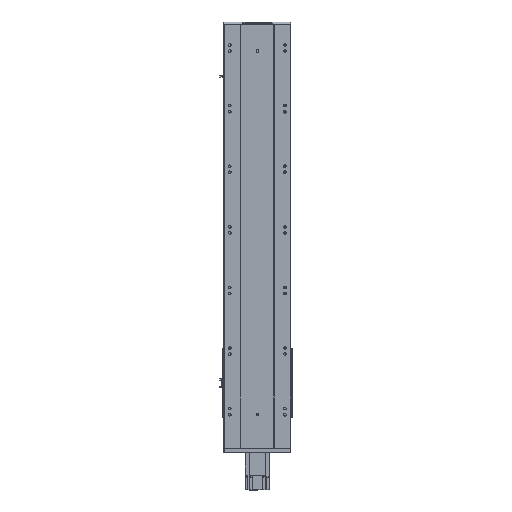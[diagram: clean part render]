
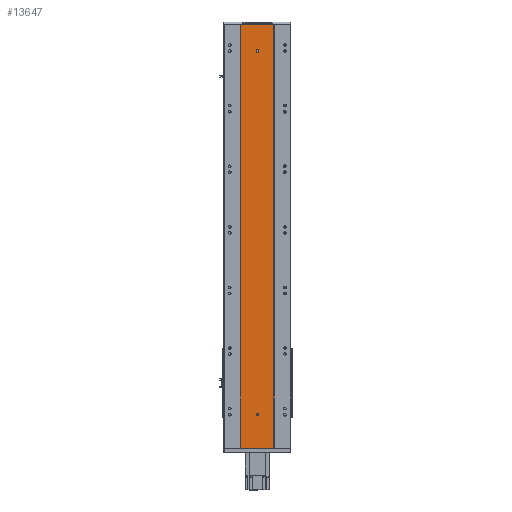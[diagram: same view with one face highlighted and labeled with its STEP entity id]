
A CAD part, top view. The second image highlights one B-rep face of the part: STEP entity #13647.
In plain terms, the highlighted planar face has unit normal (0, 0, 1).
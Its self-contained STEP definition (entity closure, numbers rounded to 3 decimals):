
#510 = EDGE_CURVE ( 'NONE', #26746, #13323, #16286, .T. ) ;
#695 = EDGE_LOOP ( 'NONE', ( #18181, #17493 ) ) ;
#696 = CARTESIAN_POINT ( 'NONE',  ( -4., 1309., 58. ) ) ;
#1086 = CARTESIAN_POINT ( 'NONE',  ( 55., 1397., 58. ) ) ;
#1141 = DIRECTION ( 'NONE',  ( 1., 0., 0. ) ) ;
#2006 = CARTESIAN_POINT ( 'NONE',  ( -4., 1309., 58. ) ) ;
#2938 = ORIENTED_EDGE ( 'NONE', *, *, #6625, .F. ) ;
#3238 = LINE ( 'NONE', #3608, #28478 ) ;
#3364 = AXIS2_PLACEMENT_3D ( 'NONE', #29011, #4391, #8823 ) ;
#3608 = CARTESIAN_POINT ( 'NONE',  ( -55., 1397., 58. ) ) ;
#3988 = CARTESIAN_POINT ( 'NONE',  ( -55., 0., 58. ) ) ;
#4126 = DIRECTION ( 'NONE',  ( 1., 0., 0. ) ) ;
#4391 = DIRECTION ( 'NONE',  ( 0., 0., 1. ) ) ;
#5233 = EDGE_CURVE ( 'NONE', #9605, #9169, #11772, .T. ) ;
#5434 = CARTESIAN_POINT ( 'NONE',  ( 0., 1311., 58. ) ) ;
#6055 = CARTESIAN_POINT ( 'NONE',  ( 0., 110., 58. ) ) ;
#6625 = EDGE_CURVE ( 'NONE', #10661, #18794, #7141, .T. ) ;
#6629 = CIRCLE ( 'NONE', #13360, 4. ) ;
#6835 = VERTEX_POINT ( 'NONE', #696 ) ;
#6971 = EDGE_CURVE ( 'NONE', #8799, #10781, #10625, .T. ) ;
#7141 = LINE ( 'NONE', #22121, #14150 ) ;
#7654 = CARTESIAN_POINT ( 'NONE',  ( -55., 0., 58. ) ) ;
#7805 = AXIS2_PLACEMENT_3D ( 'NONE', #5434, #23136, #1141 ) ;
#7885 = AXIS2_PLACEMENT_3D ( 'NONE', #20626, #27370, #11299 ) ;
#8799 = VERTEX_POINT ( 'NONE', #3988 ) ;
#8823 = DIRECTION ( 'NONE',  ( 1., 0., 0. ) ) ;
#9046 = DIRECTION ( 'NONE',  ( 0., -1., 0. ) ) ;
#9169 = VERTEX_POINT ( 'NONE', #26096 ) ;
#9257 = ORIENTED_EDGE ( 'NONE', *, *, #19882, .F. ) ;
#9304 = ORIENTED_EDGE ( 'NONE', *, *, #6971, .T. ) ;
#9605 = VERTEX_POINT ( 'NONE', #23335 ) ;
#10193 = FACE_BOUND ( 'NONE', #11931, .T. ) ;
#10311 = EDGE_CURVE ( 'NONE', #9169, #6835, #16125, .T. ) ;
#10625 = LINE ( 'NONE', #7654, #21536 ) ;
#10661 = VERTEX_POINT ( 'NONE', #12372 ) ;
#10781 = VERTEX_POINT ( 'NONE', #22060 ) ;
#11002 = DIRECTION ( 'NONE',  ( 0., -1., 0. ) ) ;
#11299 = DIRECTION ( 'NONE',  ( -1., 0., 0. ) ) ;
#11772 = CIRCLE ( 'NONE', #7805, 4. ) ;
#11906 = EDGE_LOOP ( 'NONE', ( #9304, #18253, #2938, #13684 ) ) ;
#11931 = EDGE_LOOP ( 'NONE', ( #9257, #16215, #15834, #17824 ) ) ;
#12372 = CARTESIAN_POINT ( 'NONE',  ( -55., 1397., 58. ) ) ;
#13323 = VERTEX_POINT ( 'NONE', #25948 ) ;
#13359 = PLANE ( 'NONE',  #7885 ) ;
#13360 = AXIS2_PLACEMENT_3D ( 'NONE', #23480, #26200, #4126 ) ;
#13581 = VECTOR ( 'NONE', #25722, 1000. ) ;
#13647 = ADVANCED_FACE ( 'NONE', ( #24973, #10193, #17926 ), #13359, .F. ) ;
#13684 = ORIENTED_EDGE ( 'NONE', *, *, #26314, .T. ) ;
#14150 = VECTOR ( 'NONE', #28552, 1000. ) ;
#15112 = DIRECTION ( 'NONE',  ( 1., 0., 0. ) ) ;
#15403 = VECTOR ( 'NONE', #11002, 1000. ) ;
#15651 = CARTESIAN_POINT ( 'NONE',  ( 4., 1309., 58. ) ) ;
#15834 = ORIENTED_EDGE ( 'NONE', *, *, #10311, .F. ) ;
#16125 = LINE ( 'NONE', #2006, #15403 ) ;
#16215 = ORIENTED_EDGE ( 'NONE', *, *, #19137, .F. ) ;
#16286 = CIRCLE ( 'NONE', #3364, 4. ) ;
#16392 = EDGE_CURVE ( 'NONE', #18794, #10781, #22386, .T. ) ;
#16458 = AXIS2_PLACEMENT_3D ( 'NONE', #6055, #26486, #15112 ) ;
#16459 = LINE ( 'NONE', #15651, #22069 ) ;
#17493 = ORIENTED_EDGE ( 'NONE', *, *, #27948, .F. ) ;
#17824 = ORIENTED_EDGE ( 'NONE', *, *, #5233, .F. ) ;
#17926 = FACE_OUTER_BOUND ( 'NONE', #11906, .T. ) ;
#18181 = ORIENTED_EDGE ( 'NONE', *, *, #510, .F. ) ;
#18253 = ORIENTED_EDGE ( 'NONE', *, *, #16392, .F. ) ;
#18452 = VERTEX_POINT ( 'NONE', #19474 ) ;
#18794 = VERTEX_POINT ( 'NONE', #23332 ) ;
#19137 = EDGE_CURVE ( 'NONE', #6835, #18452, #6629, .T. ) ;
#19474 = CARTESIAN_POINT ( 'NONE',  ( 4., 1309., 58. ) ) ;
#19882 = EDGE_CURVE ( 'NONE', #18452, #9605, #16459, .T. ) ;
#19928 = CARTESIAN_POINT ( 'NONE',  ( 4., 110., 58. ) ) ;
#20626 = CARTESIAN_POINT ( 'NONE',  ( -55., 1397., 58. ) ) ;
#21536 = VECTOR ( 'NONE', #25533, 1000. ) ;
#22060 = CARTESIAN_POINT ( 'NONE',  ( 55., 0., 58. ) ) ;
#22069 = VECTOR ( 'NONE', #27188, 1000. ) ;
#22121 = CARTESIAN_POINT ( 'NONE',  ( -55., 1397., 58. ) ) ;
#22386 = LINE ( 'NONE', #1086, #13581 ) ;
#22439 = CIRCLE ( 'NONE', #16458, 4. ) ;
#23136 = DIRECTION ( 'NONE',  ( 0., 0., 1. ) ) ;
#23332 = CARTESIAN_POINT ( 'NONE',  ( 55., 1397., 58. ) ) ;
#23335 = CARTESIAN_POINT ( 'NONE',  ( 4., 1311., 58. ) ) ;
#23480 = CARTESIAN_POINT ( 'NONE',  ( 0., 1309., 58. ) ) ;
#24973 = FACE_BOUND ( 'NONE', #695, .T. ) ;
#25533 = DIRECTION ( 'NONE',  ( 1., 0., 0. ) ) ;
#25722 = DIRECTION ( 'NONE',  ( 0., -1., 0. ) ) ;
#25948 = CARTESIAN_POINT ( 'NONE',  ( -4., 110., 58. ) ) ;
#26096 = CARTESIAN_POINT ( 'NONE',  ( -4., 1311., 58. ) ) ;
#26200 = DIRECTION ( 'NONE',  ( 0., 0., 1. ) ) ;
#26314 = EDGE_CURVE ( 'NONE', #10661, #8799, #3238, .T. ) ;
#26486 = DIRECTION ( 'NONE',  ( 0., 0., 1. ) ) ;
#26746 = VERTEX_POINT ( 'NONE', #19928 ) ;
#27188 = DIRECTION ( 'NONE',  ( 0., 1., 0. ) ) ;
#27370 = DIRECTION ( 'NONE',  ( 0., 0., -1. ) ) ;
#27948 = EDGE_CURVE ( 'NONE', #13323, #26746, #22439, .T. ) ;
#28478 = VECTOR ( 'NONE', #9046, 1000. ) ;
#28552 = DIRECTION ( 'NONE',  ( 1., 0., 0. ) ) ;
#29011 = CARTESIAN_POINT ( 'NONE',  ( 0., 110., 58. ) ) ;
